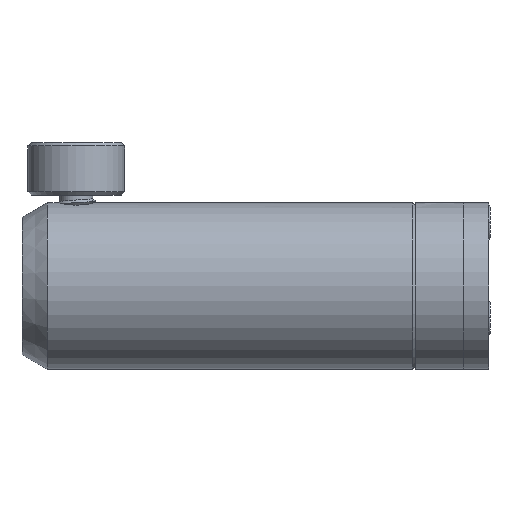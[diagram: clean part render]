
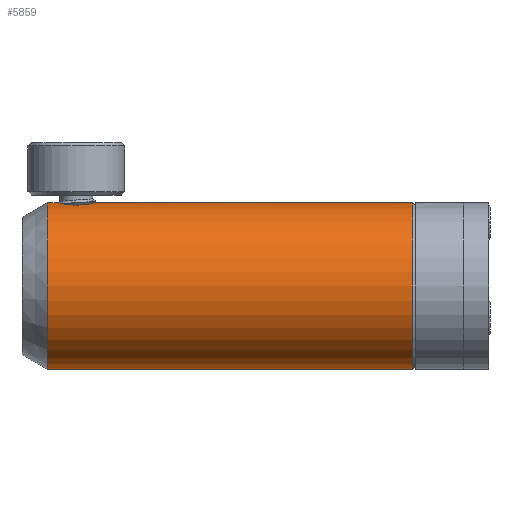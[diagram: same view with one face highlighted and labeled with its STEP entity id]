
A CAD part, left-side view. The second image highlights one B-rep face of the part: STEP entity #5859.
In plain terms, the highlighted cylindrical face has radius 12.497 mm (diameter 24.994 mm), a partial arc.
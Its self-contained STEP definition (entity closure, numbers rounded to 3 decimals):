
#3859=DIRECTION('',(0.,1.,0.));
#3860=VECTOR('',#3859,47.402);
#3861=CARTESIAN_POINT('',(-28.909,-32.492,
23.27));
#3862=LINE('',#3861,#3860);
#3863=CARTESIAN_POINT('',(-28.909,14.91,23.27));
#3895=DIRECTION('',(0.,-1.,0.));
#3896=VECTOR('',#3895,54.72);
#3897=CARTESIAN_POINT('',(-28.909,22.228,
-1.723));
#3898=LINE('',#3897,#3896);
#3907=CARTESIAN_POINT('',(-28.909,-32.492,
10.773));
#3908=DIRECTION('',(0.,1.,0.));
#3909=DIRECTION('',(0.,0.,-1.));
#3910=AXIS2_PLACEMENT_3D('',#3907,#3908,#3909);
#3912=DIRECTION('',(0.,-1.,0.));
#3913=VECTOR('',#3912,1.318);
#3914=CARTESIAN_POINT('',(-28.909,22.228,23.27));
#3915=LINE('',#3914,#3913);
#3916=CARTESIAN_POINT('',(-28.909,20.91,23.27));
#3917=CARTESIAN_POINT('',(-29.104,20.91,23.27));
#3918=CARTESIAN_POINT('',(-29.489,20.872,23.261));
#3919=CARTESIAN_POINT('',(-30.059,20.701,23.221));
#3920=CARTESIAN_POINT('',(-30.583,20.422,23.161));
#3921=CARTESIAN_POINT('',(-31.046,20.042,23.089));
#3922=CARTESIAN_POINT('',(-31.422,19.583,23.016));
#3923=CARTESIAN_POINT('',(-31.702,19.056,22.955));
#3924=CARTESIAN_POINT('',(-31.871,18.489,22.914));
#3925=CARTESIAN_POINT('',(-31.909,18.105,22.905));
#3926=CARTESIAN_POINT('',(-31.909,17.91,22.905));
#3928=CARTESIAN_POINT('',(-31.909,17.91,22.905));
#3929=CARTESIAN_POINT('',(-31.909,17.714,22.905));
#3930=CARTESIAN_POINT('',(-31.871,17.33,22.914));
#3931=CARTESIAN_POINT('',(-31.702,16.762,22.955));
#3932=CARTESIAN_POINT('',(-31.422,16.236,23.016));
#3933=CARTESIAN_POINT('',(-31.046,15.777,23.089));
#3934=CARTESIAN_POINT('',(-30.583,15.397,23.161));
#3935=CARTESIAN_POINT('',(-30.06,15.118,23.221));
#3936=CARTESIAN_POINT('',(-29.489,14.947,23.261));
#3937=CARTESIAN_POINT('',(-29.104,14.91,23.27));
#3938=CARTESIAN_POINT('',(-28.909,14.91,23.27));
#3944=CARTESIAN_POINT('',(-28.909,22.228,10.773));
#3945=DIRECTION('',(0.,1.,0.));
#3946=DIRECTION('',(0.,0.,-1.));
#3947=AXIS2_PLACEMENT_3D('',#3944,#3945,#3946);
#5661=CARTESIAN_POINT('',(-28.909,22.228,23.27));
#5662=VERTEX_POINT('',#5661);
#5663=CARTESIAN_POINT('',(-28.909,22.228,
-1.723));
#5664=VERTEX_POINT('',#5663);
#5677=VERTEX_POINT('',#3863);
#5679=VERTEX_POINT('',#3916);
#5680=VERTEX_POINT('',#3926);
#5774=CARTESIAN_POINT('',(-28.909,-32.492,
23.27));
#5775=CARTESIAN_POINT('',(-28.909,-32.492,
-1.723));
#5776=VERTEX_POINT('',#5774);
#5777=VERTEX_POINT('',#5775);
#5842=CARTESIAN_POINT('',(-28.909,26.038,10.773));
#5843=DIRECTION('',(0.,-1.,0.));
#5844=DIRECTION('',(0.,0.,-1.));
#5845=AXIS2_PLACEMENT_3D('',#5842,#5843,#5844);
#5846=CYLINDRICAL_SURFACE('',#5845,12.497);
#5847=ORIENTED_EDGE('',*,*,#5833,.F.);
#5848=ORIENTED_EDGE('',*,*,#5808,.F.);
#5850=ORIENTED_EDGE('',*,*,#5849,.T.);
#5851=ORIENTED_EDGE('',*,*,#5804,.T.);
#5853=ORIENTED_EDGE('',*,*,#5852,.T.);
#5855=ORIENTED_EDGE('',*,*,#5854,.T.);
#5856=ORIENTED_EDGE('',*,*,#5798,.F.);
#5857=EDGE_LOOP('',(#5847,#5848,#5850,#5851,#5853,#5855,#5856));
#5858=FACE_OUTER_BOUND('',#5857,.F.);
#5859=ADVANCED_FACE('',(#5858),#5846,.T.);
#3911=CIRCLE('',#3910,12.497);
#3927=B_SPLINE_CURVE_WITH_KNOTS('',3,(#3916,#3917,#3918,#3919,#3920,#3921,#3922,
#3923,#3924,#3925,#3926),.UNSPECIFIED.,.F.,.F.,(4,1,1,1,1,1,1,1,4),(0.,
0.125,0.25,0.375,0.5,0.625,0.75,0.875,1.),.UNSPECIFIED.);
#3939=B_SPLINE_CURVE_WITH_KNOTS('',3,(#3928,#3929,#3930,#3931,#3932,#3933,#3934,
#3935,#3936,#3937,#3938),.UNSPECIFIED.,.F.,.F.,(4,1,1,1,1,1,1,1,4),(0.,
0.125,0.25,0.375,0.5,0.625,0.75,0.875,1.),.UNSPECIFIED.);
#3948=CIRCLE('',#3947,12.497);
#5798=EDGE_CURVE('',#5776,#5677,#3862,.T.);
#5804=EDGE_CURVE('',#5662,#5679,#3915,.T.);
#5808=EDGE_CURVE('',#5664,#5777,#3898,.T.);
#5833=EDGE_CURVE('',#5777,#5776,#3911,.T.);
#5849=EDGE_CURVE('',#5664,#5662,#3948,.T.);
#5852=EDGE_CURVE('',#5679,#5680,#3927,.T.);
#5854=EDGE_CURVE('',#5680,#5677,#3939,.T.);
